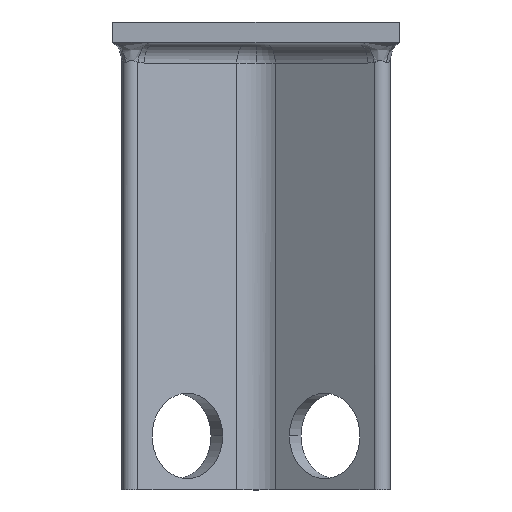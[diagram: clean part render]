
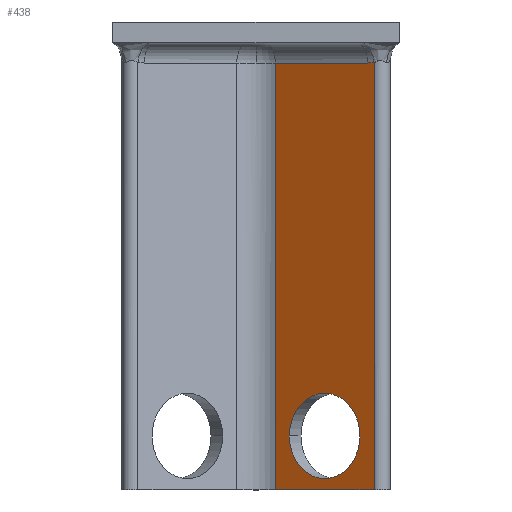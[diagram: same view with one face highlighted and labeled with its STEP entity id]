
A CAD part, top view. The second image highlights one B-rep face of the part: STEP entity #438.
In plain terms, the highlighted planar face has unit normal (-0.563, 0, 0.826).
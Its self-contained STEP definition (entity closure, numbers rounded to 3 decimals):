
#76 = AXIS2_PLACEMENT_3D ( 'NONE', #738, #1116, #1145 ) ;
#90 = VECTOR ( 'NONE', #626, 1000. ) ;
#101 = VECTOR ( 'NONE', #1507, 1000. ) ;
#130 = CIRCLE ( 'NONE', #76, 6.25 ) ;
#173 = ORIENTED_EDGE ( 'NONE', *, *, #625, .T. ) ;
#221 = VERTEX_POINT ( 'NONE', #1785 ) ;
#222 = ORIENTED_EDGE ( 'NONE', *, *, #784, .F. ) ;
#224 = EDGE_CURVE ( 'NONE', #565, #1659, #1395, .T. ) ;
#242 = CARTESIAN_POINT ( 'NONE',  ( 17.297, -65.5, 7.655 ) ) ;
#245 = DIRECTION ( 'NONE',  ( 0.826, 0., 0.563 ) ) ;
#263 = LINE ( 'NONE', #1759, #101 ) ;
#298 = ORIENTED_EDGE ( 'NONE', *, *, #1302, .T. ) ;
#395 = FACE_OUTER_BOUND ( 'NONE', #592, .T. ) ;
#412 = CARTESIAN_POINT ( 'NONE',  ( 17.297, -65.5, 7.655 ) ) ;
#438 = ADVANCED_FACE ( 'NONE', ( #1219, #395 ), #811, .T. ) ;
#451 = DIRECTION ( 'NONE',  ( -0.826, 0., -0.563 ) ) ;
#465 = CARTESIAN_POINT ( 'NONE',  ( 2.815, -65.5, -2.211 ) ) ;
#544 = EDGE_CURVE ( 'NONE', #221, #785, #263, .T. ) ;
#545 = CARTESIAN_POINT ( 'NONE',  ( 16.366, -3., 7.021 ) ) ;
#565 = VERTEX_POINT ( 'NONE', #1526 ) ;
#592 = EDGE_LOOP ( 'NONE', ( #173, #1191, #850, #298, #1069 ) ) ;
#596 = VECTOR ( 'NONE', #451, 1000. ) ;
#597 = CARTESIAN_POINT ( 'NONE',  ( 16.366, -3., 7.021 ) ) ;
#625 = EDGE_CURVE ( 'NONE', #1659, #221, #681, .T. ) ;
#626 = DIRECTION ( 'NONE',  ( 0., 1., 0. ) ) ;
#681 = LINE ( 'NONE', #943, #1365 ) ;
#738 = CARTESIAN_POINT ( 'NONE',  ( 10.056, -57.6, 2.722 ) ) ;
#767 = LINE ( 'NONE', #242, #90 ) ;
#784 = EDGE_CURVE ( 'NONE', #1541, #941, #130, .T. ) ;
#785 = VERTEX_POINT ( 'NONE', #465 ) ;
#811 = PLANE ( 'NONE',  #1765 ) ;
#850 = ORIENTED_EDGE ( 'NONE', *, *, #1149, .F. ) ;
#868 = CARTESIAN_POINT ( 'NONE',  ( 17.297, -65.5, 7.655 ) ) ;
#873 = EDGE_CURVE ( 'NONE', #941, #1541, #1689, .T. ) ;
#937 = CARTESIAN_POINT ( 'NONE',  ( 18.537, -75.5, 8.5 ) ) ;
#938 = CARTESIAN_POINT ( 'NONE',  ( 10.056, -57.6, 2.722 ) ) ;
#941 = VERTEX_POINT ( 'NONE', #1121 ) ;
#943 = CARTESIAN_POINT ( 'NONE',  ( 18.537, -3., 8.5 ) ) ;
#978 = VERTEX_POINT ( 'NONE', #412 ) ;
#1046 = EDGE_LOOP ( 'NONE', ( #1141, #222 ) ) ;
#1069 = ORIENTED_EDGE ( 'NONE', *, *, #224, .T. ) ;
#1086 = DIRECTION ( 'NONE',  ( -0.826, 0., -0.563 ) ) ;
#1116 = DIRECTION ( 'NONE',  ( -0.563, 0., 0.826 ) ) ;
#1121 = CARTESIAN_POINT ( 'NONE',  ( 15.222, -57.6, 6.241 ) ) ;
#1141 = ORIENTED_EDGE ( 'NONE', *, *, #873, .F. ) ;
#1145 = DIRECTION ( 'NONE',  ( 0.826, 0., 0.563 ) ) ;
#1149 = EDGE_CURVE ( 'NONE', #978, #785, #1684, .T. ) ;
#1191 = ORIENTED_EDGE ( 'NONE', *, *, #544, .T. ) ;
#1219 = FACE_BOUND ( 'NONE', #1046, .T. ) ;
#1302 = EDGE_CURVE ( 'NONE', #978, #565, #767, .T. ) ;
#1345 = CARTESIAN_POINT ( 'NONE',  ( 16.677, -3., 7.233 ) ) ;
#1363 = DIRECTION ( 'NONE',  ( 0., 1., 0. ) ) ;
#1365 = VECTOR ( 'NONE', #1086, 1000. ) ;
#1395 = B_SPLINE_CURVE_WITH_KNOTS ( 'NONE', 3,
 ( #1777, #1534, #1345, #545 ),
 .UNSPECIFIED., .F., .F.,
 ( 4, 4 ),
 ( 0., 0.001 ),
 .UNSPECIFIED. ) ;
#1507 = DIRECTION ( 'NONE',  ( 0., -1., 0. ) ) ;
#1523 = CARTESIAN_POINT ( 'NONE',  ( 4.891, -57.6, -0.797 ) ) ;
#1526 = CARTESIAN_POINT ( 'NONE',  ( 17.297, -2.932, 7.655 ) ) ;
#1534 = CARTESIAN_POINT ( 'NONE',  ( 16.988, -2.978, 7.445 ) ) ;
#1541 = VERTEX_POINT ( 'NONE', #1523 ) ;
#1622 = DIRECTION ( 'NONE',  ( -0.563, 0., 0.826 ) ) ;
#1659 = VERTEX_POINT ( 'NONE', #597 ) ;
#1684 = LINE ( 'NONE', #868, #596 ) ;
#1689 = CIRCLE ( 'NONE', #1745, 6.25 ) ;
#1745 = AXIS2_PLACEMENT_3D ( 'NONE', #938, #1622, #245 ) ;
#1759 = CARTESIAN_POINT ( 'NONE',  ( 2.815, -57.185, -2.211 ) ) ;
#1763 = DIRECTION ( 'NONE',  ( -0.563, 0., 0.826 ) ) ;
#1765 = AXIS2_PLACEMENT_3D ( 'NONE', #937, #1763, #1363 ) ;
#1777 = CARTESIAN_POINT ( 'NONE',  ( 17.297, -2.932, 7.655 ) ) ;
#1785 = CARTESIAN_POINT ( 'NONE',  ( 2.815, -3., -2.211 ) ) ;
